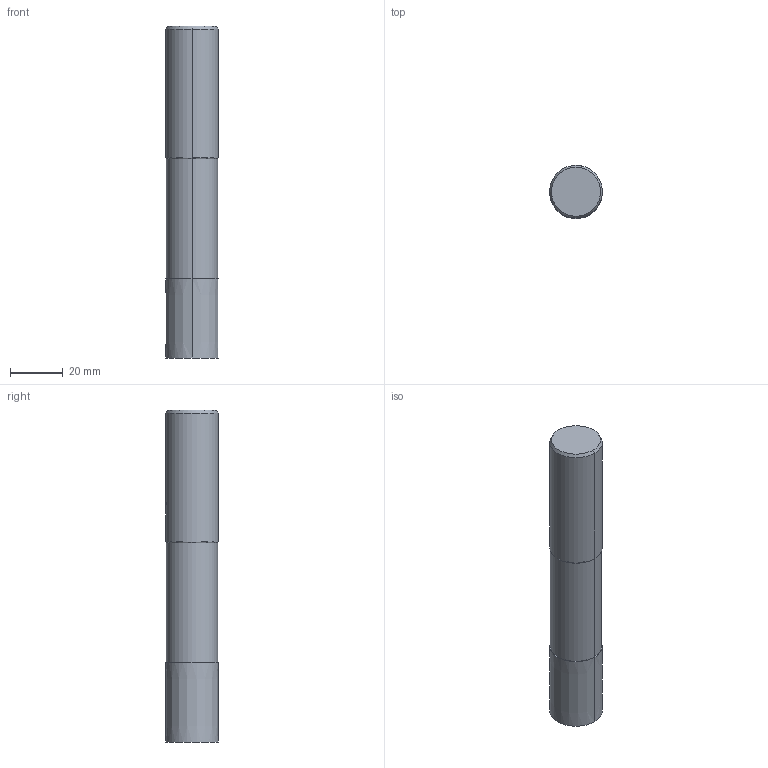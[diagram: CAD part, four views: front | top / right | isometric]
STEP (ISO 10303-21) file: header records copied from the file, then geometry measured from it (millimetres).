
FILE_DESCRIPTION(('no description'),'unknown implementation level');
FILE_NAME('solidKCy94F2HbtONpAdAb2m_Y9pNDtY_1.STP',' ',('CIMSOURCE GmbH'),('CADClick - KiM GmbH - www.kimweb.de'),'unknown preprocess','ACIS','unknown authorization');
FILE_SCHEMA(('automotive_design'));
Length unit declared in the file: millimetre
Products named in the file (2): NOCUT; CUT
Bounding box: 20 x 20 x 126 mm (x, y, z)
Volume: 38846.1 mm3; surface area: 11159.3 mm2
Topology: 2 solids, 2 shells, 41 faces, 93 edges, 58 vertices
Faces by surface type: cylinder 16, cone 14, plane 11
Entity records: 2652 total; most frequent: CARTESIAN_POINT 578, DIRECTION 211, STYLED_ITEM 194, PRESENTATION_STYLE_ASSIGNMENT 194, COLOUR_RGB 194, ORIENTED_EDGE 186, EDGE_CURVE 93, CURVE_STYLE 93
